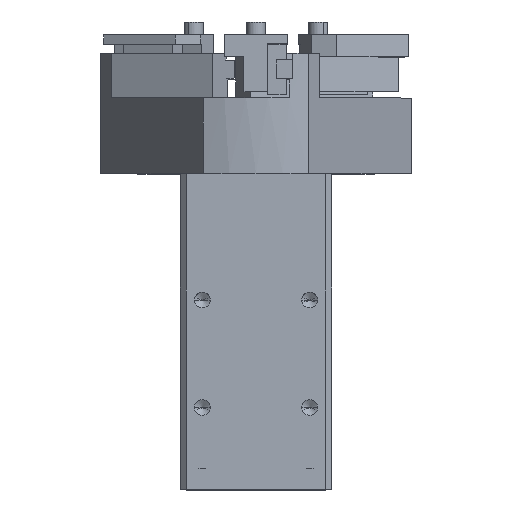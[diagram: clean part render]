
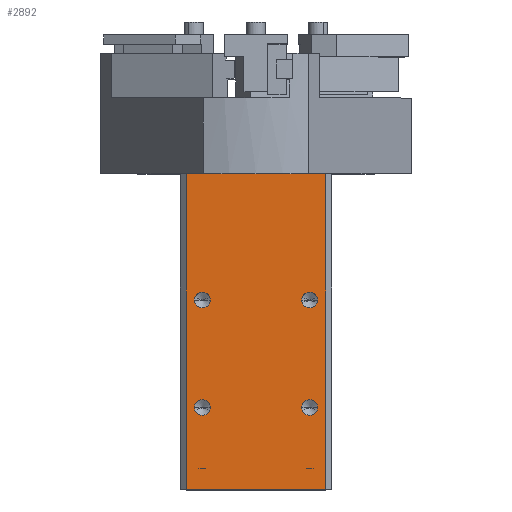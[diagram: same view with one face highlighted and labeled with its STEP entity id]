
A CAD part, top view. The second image highlights one B-rep face of the part: STEP entity #2892.
In plain terms, the highlighted planar face has unit normal (0, 0, 1) as drawn and (-1, 0, 0) by its records, which use the part's own axes.
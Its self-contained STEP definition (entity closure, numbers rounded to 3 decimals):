
#1365 = DIRECTION ( 'NONE',  ( 0., 0., 1. ) ) ;
#1366 = DIRECTION ( 'NONE',  ( -1., 0., 0. ) ) ;
#1367 = CARTESIAN_POINT ( 'NONE',  ( -17., 37., 8.5 ) ) ;
#1368 = AXIS2_PLACEMENT_3D ( 'NONE', #1367, #1366, #1365 ) ;
#1369 = CIRCLE ( 'NONE', #1368, 1.25 ) ;
#1370 = CARTESIAN_POINT ( 'NONE',  ( -17., 37., 9.75 ) ) ;
#1438 = CARTESIAN_POINT ( 'NONE',  ( -17., 37., 7.25 ) ) ;
#1711 = VERTEX_POINT ( 'NONE', #6229 ) ;
#1713 = VERTEX_POINT ( 'NONE', #6279 ) ;
#1715 = EDGE_CURVE ( 'NONE', #1713, #1711, #6278, .T. ) ;
#1722 = VERTEX_POINT ( 'NONE', #6306 ) ;
#1754 = VERTEX_POINT ( 'NONE', #6392 ) ;
#1756 = EDGE_CURVE ( 'NONE', #1722, #1754, #6391, .T. ) ;
#1787 = VERTEX_POINT ( 'NONE', #6456 ) ;
#1789 = EDGE_CURVE ( 'NONE', #1790, #1787, #6511, .T. ) ;
#1790 = VERTEX_POINT ( 'NONE', #6506 ) ;
#2816 = EDGE_LOOP ( 'NONE', ( #2869, #2871 ) ) ;
#2856 = VERTEX_POINT ( 'NONE', #9375 ) ;
#2857 = ORIENTED_EDGE ( 'NONE', *, *, #2858, .T. ) ;
#2858 = EDGE_CURVE ( 'NONE', #2856, #2859, #9374, .T. ) ;
#2859 = VERTEX_POINT ( 'NONE', #9370 ) ;
#2860 = ORIENTED_EDGE ( 'NONE', *, *, #2861, .F. ) ;
#2861 = EDGE_CURVE ( 'NONE', #2862, #2859, #9369, .T. ) ;
#2862 = VERTEX_POINT ( 'NONE', #9365 ) ;
#2863 = ORIENTED_EDGE ( 'NONE', *, *, #2864, .T. ) ;
#2864 = EDGE_CURVE ( 'NONE', #2862, #2882, #9364, .T. ) ;
#2869 = ORIENTED_EDGE ( 'NONE', *, *, #2870, .F. ) ;
#2870 = EDGE_CURVE ( 'NONE', #1711, #1713, #9445, .T. ) ;
#2871 = ORIENTED_EDGE ( 'NONE', *, *, #1715, .F. ) ;
#2872 = EDGE_LOOP ( 'NONE', ( #2873, #2875 ) ) ;
#2873 = ORIENTED_EDGE ( 'NONE', *, *, #2874, .F. ) ;
#2874 = EDGE_CURVE ( 'NONE', #1754, #1722, #9440, .T. ) ;
#2875 = ORIENTED_EDGE ( 'NONE', *, *, #1756, .F. ) ;
#2876 = EDGE_LOOP ( 'NONE', ( #2877, #2879 ) ) ;
#2877 = ORIENTED_EDGE ( 'NONE', *, *, #2878, .F. ) ;
#2878 = EDGE_CURVE ( 'NONE', #1787, #1790, #9435, .T. ) ;
#2879 = ORIENTED_EDGE ( 'NONE', *, *, #1789, .F. ) ;
#2880 = EDGE_LOOP ( 'NONE', ( #2881, #2857, #2860, #2863 ) ) ;
#2881 = ORIENTED_EDGE ( 'NONE', *, *, #2936, .T. ) ;
#2882 = VERTEX_POINT ( 'NONE', #9430 ) ;
#2892 = ADVANCED_FACE ( 'NONE', ( #9474, #9473, #9472, #9471, #9470 ), #9455, .F. ) ;
#2893 = EDGE_LOOP ( 'NONE', ( #2894, #2896 ) ) ;
#2894 = ORIENTED_EDGE ( 'NONE', *, *, #2895, .F. ) ;
#2895 = EDGE_CURVE ( 'NONE', #17100, #17109, #9510, .T. ) ;
#2896 = ORIENTED_EDGE ( 'NONE', *, *, #17101, .F. ) ;
#2936 = EDGE_CURVE ( 'NONE', #2882, #2856, #9521, .T. ) ;
#6229 = CARTESIAN_POINT ( 'NONE',  ( -17., 20., 9.75 ) ) ;
#6274 = DIRECTION ( 'NONE',  ( 0., 0., 1. ) ) ;
#6275 = DIRECTION ( 'NONE',  ( -1., 0., 0. ) ) ;
#6276 = CARTESIAN_POINT ( 'NONE',  ( -17., 20., 8.5 ) ) ;
#6277 = AXIS2_PLACEMENT_3D ( 'NONE', #6276, #6275, #6274 ) ;
#6278 = CIRCLE ( 'NONE', #6277, 1.25 ) ;
#6279 = CARTESIAN_POINT ( 'NONE',  ( -17., 20., 7.25 ) ) ;
#6306 = CARTESIAN_POINT ( 'NONE',  ( -17., 20., -9.75 ) ) ;
#6387 = DIRECTION ( 'NONE',  ( 0., 0., 1. ) ) ;
#6388 = DIRECTION ( 'NONE',  ( -1., 0., 0. ) ) ;
#6389 = CARTESIAN_POINT ( 'NONE',  ( -17., 20., -8.5 ) ) ;
#6390 = AXIS2_PLACEMENT_3D ( 'NONE', #6389, #6388, #6387 ) ;
#6391 = CIRCLE ( 'NONE', #6390, 1.25 ) ;
#6392 = CARTESIAN_POINT ( 'NONE',  ( -17., 20., -7.25 ) ) ;
#6456 = CARTESIAN_POINT ( 'NONE',  ( -17., 37., -7.25 ) ) ;
#6506 = CARTESIAN_POINT ( 'NONE',  ( -17., 37., -9.75 ) ) ;
#6507 = DIRECTION ( 'NONE',  ( 0., 0., 1. ) ) ;
#6508 = DIRECTION ( 'NONE',  ( -1., 0., 0. ) ) ;
#6509 = CARTESIAN_POINT ( 'NONE',  ( -17., 37., -8.5 ) ) ;
#6510 = AXIS2_PLACEMENT_3D ( 'NONE', #6509, #6508, #6507 ) ;
#6511 = CIRCLE ( 'NONE', #6510, 1.25 ) ;
#9364 = LINE ( 'NONE', #9418, #9417 ) ;
#9365 = CARTESIAN_POINT ( 'NONE',  ( -17., 0., 11. ) ) ;
#9366 = DIRECTION ( 'NONE',  ( 0., 0., -1. ) ) ;
#9367 = VECTOR ( 'NONE', #9366, 1000. ) ;
#9368 = CARTESIAN_POINT ( 'NONE',  ( -17., 0., 12. ) ) ;
#9369 = LINE ( 'NONE', #9368, #9367 ) ;
#9370 = CARTESIAN_POINT ( 'NONE',  ( -17., 0., -11. ) ) ;
#9371 = DIRECTION ( 'NONE',  ( 0., -1., 0. ) ) ;
#9372 = VECTOR ( 'NONE', #9371, 1000. ) ;
#9373 = CARTESIAN_POINT ( 'NONE',  ( -17., 0., -11. ) ) ;
#9374 = LINE ( 'NONE', #9373, #9372 ) ;
#9375 = CARTESIAN_POINT ( 'NONE',  ( -17., 50., -11. ) ) ;
#9416 = DIRECTION ( 'NONE',  ( 0., 1., 0. ) ) ;
#9417 = VECTOR ( 'NONE', #9416, 1000. ) ;
#9418 = CARTESIAN_POINT ( 'NONE',  ( -17., 50., 11. ) ) ;
#9430 = CARTESIAN_POINT ( 'NONE',  ( -17., 50., 11. ) ) ;
#9431 = DIRECTION ( 'NONE',  ( 0., 0., 1. ) ) ;
#9432 = DIRECTION ( 'NONE',  ( -1., 0., 0. ) ) ;
#9433 = CARTESIAN_POINT ( 'NONE',  ( -17., 37., -8.5 ) ) ;
#9434 = AXIS2_PLACEMENT_3D ( 'NONE', #9433, #9432, #9431 ) ;
#9435 = CIRCLE ( 'NONE', #9434, 1.25 ) ;
#9436 = DIRECTION ( 'NONE',  ( 0., 0., 1. ) ) ;
#9437 = DIRECTION ( 'NONE',  ( -1., 0., 0. ) ) ;
#9438 = CARTESIAN_POINT ( 'NONE',  ( -17., 20., -8.5 ) ) ;
#9439 = AXIS2_PLACEMENT_3D ( 'NONE', #9438, #9437, #9436 ) ;
#9440 = CIRCLE ( 'NONE', #9439, 1.25 ) ;
#9441 = DIRECTION ( 'NONE',  ( 0., 0., 1. ) ) ;
#9442 = DIRECTION ( 'NONE',  ( -1., 0., 0. ) ) ;
#9443 = CARTESIAN_POINT ( 'NONE',  ( -17., 20., 8.5 ) ) ;
#9444 = AXIS2_PLACEMENT_3D ( 'NONE', #9443, #9442, #9441 ) ;
#9445 = CIRCLE ( 'NONE', #9444, 1.25 ) ;
#9451 = DIRECTION ( 'NONE',  ( 0., 0., -1. ) ) ;
#9452 = DIRECTION ( 'NONE',  ( 1., 0., 0. ) ) ;
#9453 = CARTESIAN_POINT ( 'NONE',  ( -17., 0., 12. ) ) ;
#9454 = AXIS2_PLACEMENT_3D ( 'NONE', #9453, #9452, #9451 ) ;
#9455 = PLANE ( 'NONE',  #9454 ) ;
#9470 = FACE_OUTER_BOUND ( 'NONE', #2880, .T. ) ;
#9471 = FACE_BOUND ( 'NONE', #2876, .T. ) ;
#9472 = FACE_BOUND ( 'NONE', #2872, .T. ) ;
#9473 = FACE_BOUND ( 'NONE', #2816, .T. ) ;
#9474 = FACE_BOUND ( 'NONE', #2893, .T. ) ;
#9506 = DIRECTION ( 'NONE',  ( 0., 0., 1. ) ) ;
#9507 = DIRECTION ( 'NONE',  ( -1., 0., 0. ) ) ;
#9508 = CARTESIAN_POINT ( 'NONE',  ( -17., 37., 8.5 ) ) ;
#9509 = AXIS2_PLACEMENT_3D ( 'NONE', #9508, #9507, #9506 ) ;
#9510 = CIRCLE ( 'NONE', #9509, 1.25 ) ;
#9518 = DIRECTION ( 'NONE',  ( 0., 0., -1. ) ) ;
#9519 = VECTOR ( 'NONE', #9518, 1000. ) ;
#9520 = CARTESIAN_POINT ( 'NONE',  ( -17., 50., 12. ) ) ;
#9521 = LINE ( 'NONE', #9520, #9519 ) ;
#17100 = VERTEX_POINT ( 'NONE', #1370 ) ;
#17101 = EDGE_CURVE ( 'NONE', #17109, #17100, #1369, .T. ) ;
#17109 = VERTEX_POINT ( 'NONE', #1438 ) ;
